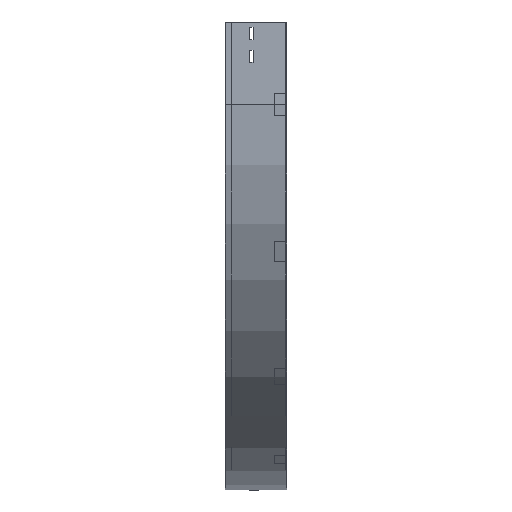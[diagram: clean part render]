
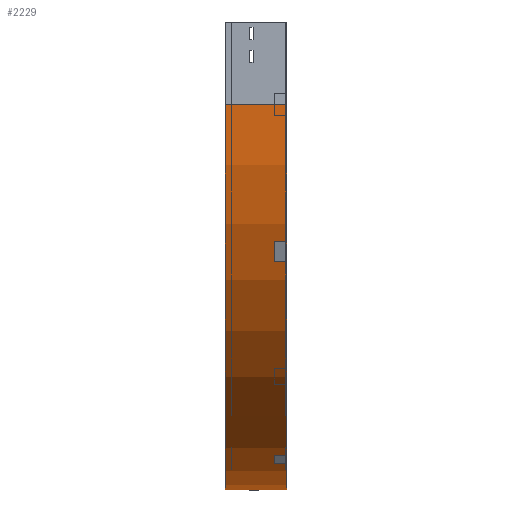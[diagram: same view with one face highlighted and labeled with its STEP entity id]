
A CAD part, left-side view. The second image highlights one B-rep face of the part: STEP entity #2229.
In plain terms, the highlighted cylindrical face has radius 700 mm (diameter 1400 mm), a partial arc.
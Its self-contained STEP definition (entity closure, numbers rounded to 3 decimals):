
#186 = LINE ( 'NONE', #473, #856 ) ;
#239 = EDGE_CURVE ( 'NONE', #2275, #2481, #1708, .T. ) ;
#269 = AXIS2_PLACEMENT_3D ( 'NONE', #1761, #3803, #2913 ) ;
#309 = DIRECTION ( 'NONE',  ( 0., -1., 0. ) ) ;
#456 = AXIS2_PLACEMENT_3D ( 'NONE', #3200, #555, #3857 ) ;
#473 = CARTESIAN_POINT ( 'NONE',  ( 0., 0., -150. ) ) ;
#555 = DIRECTION ( 'NONE',  ( 0., -1., 0. ) ) ;
#856 = VECTOR ( 'NONE', #1936, 1000. ) ;
#864 = ORIENTED_EDGE ( 'NONE', *, *, #3632, .F. ) ;
#870 = CIRCLE ( 'NONE', #269, 700. ) ;
#874 = CARTESIAN_POINT ( 'NONE',  ( 700., 0., -850. ) ) ;
#894 = LINE ( 'NONE', #874, #2005 ) ;
#932 = CARTESIAN_POINT ( 'NONE',  ( 0., 112.5, -150. ) ) ;
#1204 = EDGE_CURVE ( 'NONE', #1862, #3045, #870, .T. ) ;
#1311 = FACE_OUTER_BOUND ( 'NONE', #1521, .T. ) ;
#1521 = EDGE_LOOP ( 'NONE', ( #1677, #864, #3499, #1650 ) ) ;
#1570 = CARTESIAN_POINT ( 'NONE',  ( 0., 0., -150. ) ) ;
#1605 = DIRECTION ( 'NONE',  ( 0., 0., -1. ) ) ;
#1650 = ORIENTED_EDGE ( 'NONE', *, *, #2167, .T. ) ;
#1677 = ORIENTED_EDGE ( 'NONE', *, *, #1204, .F. ) ;
#1708 = CIRCLE ( 'NONE', #456, 700. ) ;
#1761 = CARTESIAN_POINT ( 'NONE',  ( 700., 0., -150. ) ) ;
#1862 = VERTEX_POINT ( 'NONE', #1570 ) ;
#1875 = DIRECTION ( 'NONE',  ( 0., -1., 0. ) ) ;
#1896 = CARTESIAN_POINT ( 'NONE',  ( 700., 0., -150. ) ) ;
#1936 = DIRECTION ( 'NONE',  ( 0., -1., 0. ) ) ;
#2005 = VECTOR ( 'NONE', #309, 1000. ) ;
#2167 = EDGE_CURVE ( 'NONE', #2481, #3045, #894, .T. ) ;
#2229 = ADVANCED_FACE ( 'NONE', ( #1311 ), #3391, .T. ) ;
#2247 = AXIS2_PLACEMENT_3D ( 'NONE', #1896, #1875, #1605 ) ;
#2275 = VERTEX_POINT ( 'NONE', #932 ) ;
#2481 = VERTEX_POINT ( 'NONE', #3028 ) ;
#2913 = DIRECTION ( 'NONE',  ( -1., 0., 0. ) ) ;
#3028 = CARTESIAN_POINT ( 'NONE',  ( 700., 112.5, -850. ) ) ;
#3045 = VERTEX_POINT ( 'NONE', #3060 ) ;
#3060 = CARTESIAN_POINT ( 'NONE',  ( 700., 0., -850. ) ) ;
#3200 = CARTESIAN_POINT ( 'NONE',  ( 700., 112.5, -150. ) ) ;
#3391 = CYLINDRICAL_SURFACE ( 'NONE', #2247, 700. ) ;
#3499 = ORIENTED_EDGE ( 'NONE', *, *, #239, .T. ) ;
#3632 = EDGE_CURVE ( 'NONE', #2275, #1862, #186, .T. ) ;
#3803 = DIRECTION ( 'NONE',  ( 0., -1., 0. ) ) ;
#3857 = DIRECTION ( 'NONE',  ( -1., 0., 0. ) ) ;
